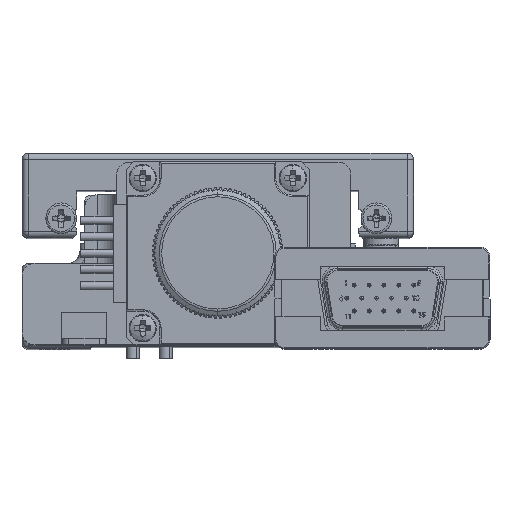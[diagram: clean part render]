
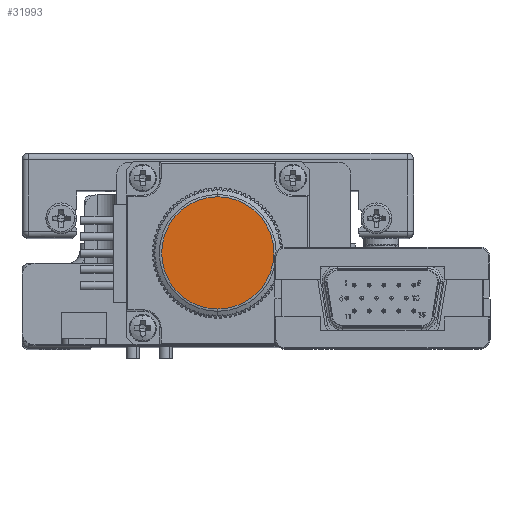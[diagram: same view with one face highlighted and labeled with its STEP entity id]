
A CAD part, top view. The second image highlights one B-rep face of the part: STEP entity #31993.
In plain terms, the highlighted planar face has unit normal (0, 0, 1).
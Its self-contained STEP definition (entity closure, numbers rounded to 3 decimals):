
#7762 = CIRCLE ( 'NONE', #63269, 8.6 ) ;
#10330 = VERTEX_POINT ( 'NONE', #61701 ) ;
#12556 = AXIS2_PLACEMENT_3D ( 'NONE', #62969, #20521, #70511 ) ;
#13328 = PLANE ( 'NONE',  #12556 ) ;
#16701 = FACE_OUTER_BOUND ( 'NONE', #69984, .T. ) ;
#20521 = DIRECTION ( 'NONE',  ( 0., 0., -1. ) ) ;
#31702 = DIRECTION ( 'NONE',  ( 0., 0., 1. ) ) ;
#31993 = ADVANCED_FACE ( 'NONE', ( #16701 ), #13328, .F. ) ;
#34707 = CARTESIAN_POINT ( 'NONE',  ( 0., 14.5, 194.5 ) ) ;
#41867 = DIRECTION ( 'NONE',  ( 0., -1., 0. ) ) ;
#43372 = AXIS2_PLACEMENT_3D ( 'NONE', #74516, #31702, #81704 ) ;
#45239 = VERTEX_POINT ( 'NONE', #85287 ) ;
#55436 = EDGE_CURVE ( 'NONE', #10330, #45239, #68761, .T. ) ;
#58945 = EDGE_CURVE ( 'NONE', #45239, #10330, #7762, .T. ) ;
#61701 = CARTESIAN_POINT ( 'NONE',  ( 0., 5.9, 194.5 ) ) ;
#62969 = CARTESIAN_POINT ( 'NONE',  ( 0., 14.5, 194.5 ) ) ;
#63269 = AXIS2_PLACEMENT_3D ( 'NONE', #34707, #84741, #41867 ) ;
#67383 = ORIENTED_EDGE ( 'NONE', *, *, #55436, .T. ) ;
#68761 = CIRCLE ( 'NONE', #43372, 8.6 ) ;
#69984 = EDGE_LOOP ( 'NONE', ( #67383, #83791 ) ) ;
#70511 = DIRECTION ( 'NONE',  ( 0., -1., 0. ) ) ;
#74516 = CARTESIAN_POINT ( 'NONE',  ( 0., 14.5, 194.5 ) ) ;
#81704 = DIRECTION ( 'NONE',  ( 0., -1., 0. ) ) ;
#83791 = ORIENTED_EDGE ( 'NONE', *, *, #58945, .T. ) ;
#84741 = DIRECTION ( 'NONE',  ( 0., 0., 1. ) ) ;
#85287 = CARTESIAN_POINT ( 'NONE',  ( 0., 23.1, 194.5 ) ) ;
